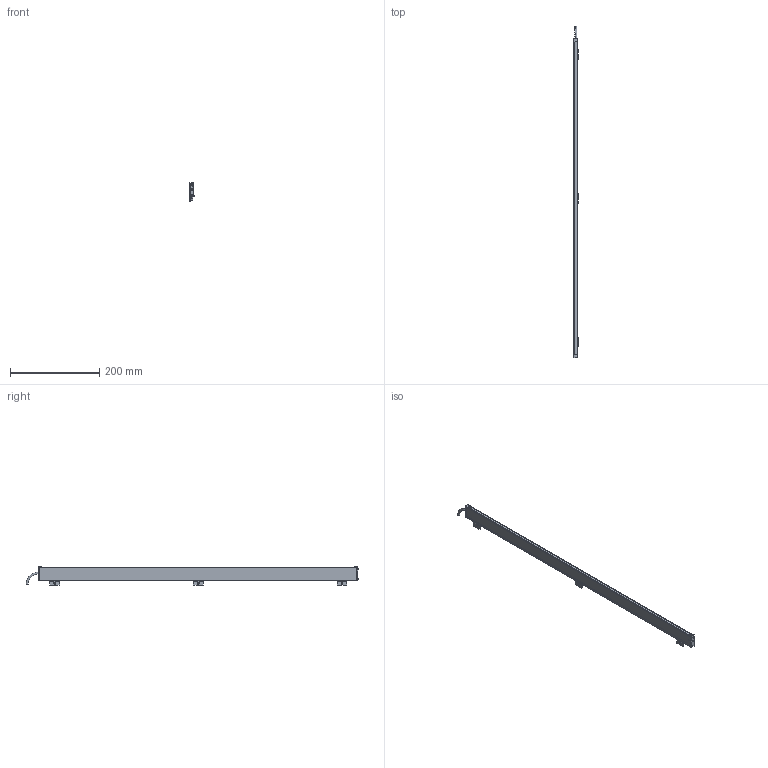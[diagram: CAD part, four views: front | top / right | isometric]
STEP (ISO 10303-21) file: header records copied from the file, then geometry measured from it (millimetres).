
FILE_DESCRIPTION (( 'STEP AP214' ), '1' );
FILE_NAME ('ILG-N-K1-0717mm.STEP', '2017-07-10T13:16:47', ( '' ), ( '' ), 'SwSTEP 2.0', 'SolidWorks 2016', '' );
FILE_SCHEMA (( 'AUTOMOTIVE_DESIGN' ));
Length unit declared in the file: millimetre
Products named in the file (1): ILG-N-K1-0717mm
Bounding box: 10.23 x 745.25 x 42.41 mm (x, y, z)
Volume: 83586.4 mm3; surface area: 123731.4 mm2
Topology: 12 solids, 12 shells, 532 faces, 1348 edges, 836 vertices
Faces by surface type: plane 296, cylinder 162, cone 64, torus 10
Entity records: 21865 total; most frequent: CARTESIAN_POINT 2865, DIRECTION 2794, ORIENTED_EDGE 2680, EDGE_CURVE 1340, AXIS2_PLACEMENT_3D 973, LINE 848, VECTOR 848, VERTEX_POINT 836
